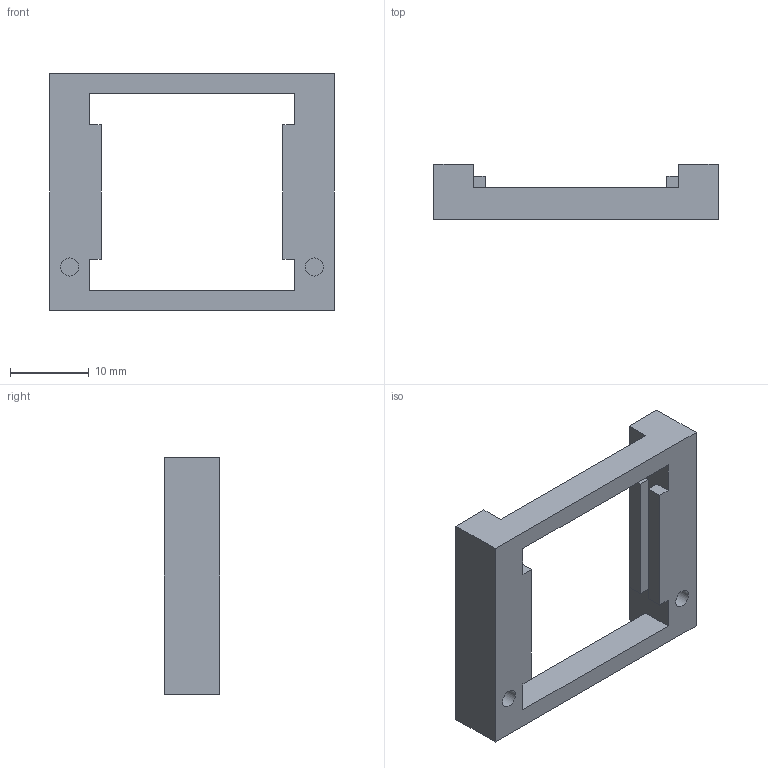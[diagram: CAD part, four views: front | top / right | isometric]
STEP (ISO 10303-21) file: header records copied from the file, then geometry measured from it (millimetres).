
FILE_DESCRIPTION(('Open CASCADE Model'),'2;1');
FILE_NAME('Open CASCADE Shape Model','2026-11-24T19:57:40',('Author'),( 'Open CASCADE'),'Open CASCADE STEP processor 7.8','Open CASCADE 7.8' ,'Unknown');
FILE_SCHEMA(('AUTOMOTIVE_DESIGN { 1 0 10303 214 1 1 1 1 }'));
Length unit declared in the file: millimetre
Products named in the file (1): Open CASCADE STEP translator 7.8 179
Bounding box: 36 x 7 x 30 mm (x, y, z)
Volume: 2790.8 mm3; surface area: 2501.8 mm2
Topology: 1 solids, 1 shells, 35 faces, 90 edges, 60 vertices
Faces by surface type: plane 33, cylinder 2
Full cylindrical faces by diameter (mm): 2.3 x2
Entity records: 2230 total; most frequent: CARTESIAN_POINT 368, DIRECTION 344, LINE 260, VECTOR 260, ORIENTED_EDGE 180, PCURVE 180, DEFINITIONAL_REPRESENTATION 180, EDGE_CURVE 90
